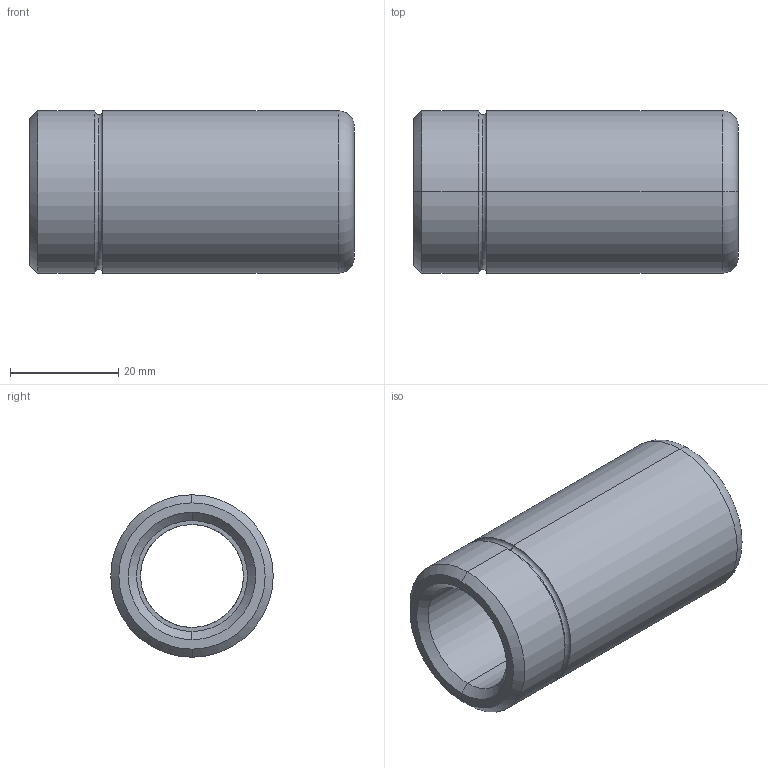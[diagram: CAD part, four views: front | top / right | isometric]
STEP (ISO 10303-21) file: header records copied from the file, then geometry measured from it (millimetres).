
FILE_DESCRIPTION(('CATIA V5 STEP Exchange'),'2;1');
FILE_NAME('C:\Users\Utente\Desktop\IO LAVORO\3D X SITO CF\X SITO\3D files 348\348-19 x 60.stp','2020-12-30T19:59:17+00:00',('none'),('none'),'CATIA Version 5 Release 20 GA (IN-10)','CATIA V5 STEP AP203','none');
FILE_SCHEMA(('CONFIG_CONTROL_DESIGN'));
Length unit declared in the file: millimetre
Products named in the file (1): 348-19 x 60
Bounding box: 60 x 30 x 30 mm (x, y, z)
Volume: 23843.5 mm3; surface area: 10086.7 mm2
Topology: 1 solids, 1 shells, 29 faces, 86 edges, 60 vertices
Faces by surface type: torus 12, cylinder 10, cone 4, plane 3
Entity records: 1154 total; most frequent: CARTESIAN_POINT 344, ORIENTED_EDGE 172, DIRECTION 132, AXIS2_PLACEMENT_3D 90, EDGE_CURVE 86, CIRCLE 60, VERTEX_POINT 60, EDGE_LOOP 32
